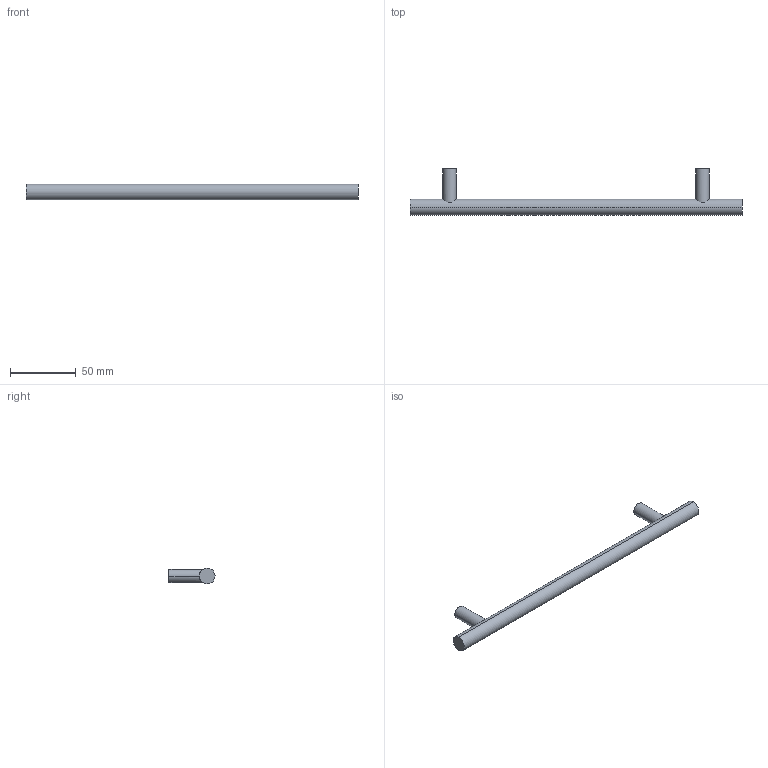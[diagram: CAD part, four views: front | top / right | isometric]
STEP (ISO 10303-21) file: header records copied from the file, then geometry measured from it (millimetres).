
FILE_DESCRIPTION( ( '' ), '1' );
FILE_NAME( 'D:/1.AUTOCAD EXPORT/Group 10/sheet_10_1/9071009.stp', '2013-10-21T09:15:47', ( '' ), ( '' ), ' ', ' ', ' ' );
FILE_SCHEMA( ( 'automotive_design' ) );
Length unit declared in the file: millimetre
Products named in the file (1): 1
Bounding box: 252 x 35 x 12 mm (x, y, z)
Volume: 31903 mm3; surface area: 11531.7 mm2
Topology: 1 solids, 1 shells, 16 faces, 32 edges, 22 vertices
Faces by surface type: cylinder 10, plane 6
Entity records: 972 total; most frequent: CARTESIAN_POINT 205, DIRECTION 76, STYLED_ITEM 71, PRESENTATION_STYLE_ASSIGNMENT 71, COLOUR_RGB 71, ORIENTED_EDGE 64, AXIS2_PLACEMENT_3D 33, EDGE_CURVE 32
